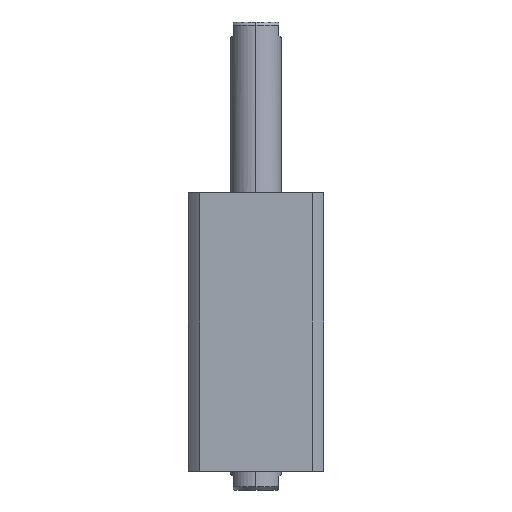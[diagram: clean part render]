
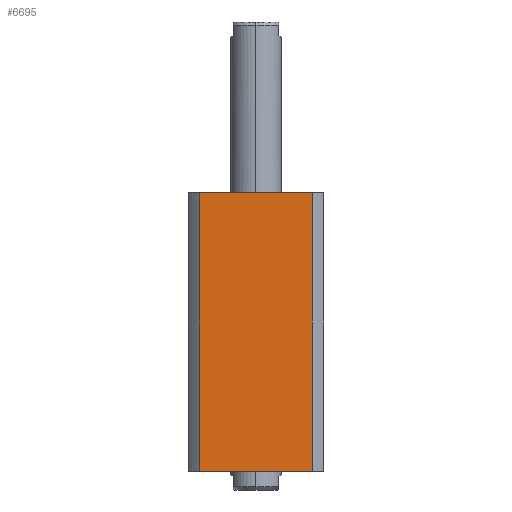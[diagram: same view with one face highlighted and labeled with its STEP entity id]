
A CAD part, left-side view. The second image highlights one B-rep face of the part: STEP entity #6695.
In plain terms, the highlighted planar face has unit normal (-1, 0, 0).
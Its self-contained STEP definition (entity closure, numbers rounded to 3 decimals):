
#31 = VECTOR ( 'NONE', #3500, 1000. ) ;
#461 = PLANE ( 'NONE',  #1492 ) ;
#491 = VERTEX_POINT ( 'NONE', #8034 ) ;
#813 = VERTEX_POINT ( 'NONE', #7697 ) ;
#1061 = FACE_OUTER_BOUND ( 'NONE', #9469, .T. ) ;
#1122 = EDGE_CURVE ( 'NONE', #6775, #1953, #2227, .T. ) ;
#1200 = EDGE_CURVE ( 'NONE', #1953, #813, #2063, .T. ) ;
#1326 = EDGE_CURVE ( 'NONE', #6775, #491, #5116, .T. ) ;
#1492 = AXIS2_PLACEMENT_3D ( 'NONE', #6508, #3386, #4996 ) ;
#1953 = VERTEX_POINT ( 'NONE', #3615 ) ;
#2063 = LINE ( 'NONE', #8396, #9453 ) ;
#2227 = LINE ( 'NONE', #3404, #31 ) ;
#2651 = DIRECTION ( 'NONE',  ( 0., -1., 0. ) ) ;
#2653 = LINE ( 'NONE', #8066, #8949 ) ;
#3146 = CARTESIAN_POINT ( 'NONE',  ( -40., 33.226, 82.5 ) ) ;
#3386 = DIRECTION ( 'NONE',  ( 1., 0., 0. ) ) ;
#3399 = ORIENTED_EDGE ( 'NONE', *, *, #3721, .T. ) ;
#3404 = CARTESIAN_POINT ( 'NONE',  ( -40., 33.226, 82.5 ) ) ;
#3500 = DIRECTION ( 'NONE',  ( 0., -1., 0. ) ) ;
#3615 = CARTESIAN_POINT ( 'NONE',  ( -40., -33.226, 82.5 ) ) ;
#3721 = EDGE_CURVE ( 'NONE', #491, #813, #2653, .T. ) ;
#3759 = DIRECTION ( 'NONE',  ( 0., 0., -1. ) ) ;
#3962 = CARTESIAN_POINT ( 'NONE',  ( -40., 33.226, 82.5 ) ) ;
#4996 = DIRECTION ( 'NONE',  ( 0., 1., 0. ) ) ;
#5116 = LINE ( 'NONE', #3962, #5231 ) ;
#5231 = VECTOR ( 'NONE', #6350, 1000. ) ;
#6350 = DIRECTION ( 'NONE',  ( 0., 0., -1. ) ) ;
#6508 = CARTESIAN_POINT ( 'NONE',  ( -40., 33.226, 82.5 ) ) ;
#6695 = ADVANCED_FACE ( 'NONE', ( #1061 ), #461, .F. ) ;
#6775 = VERTEX_POINT ( 'NONE', #3146 ) ;
#7697 = CARTESIAN_POINT ( 'NONE',  ( -40., -33.226, -82.5 ) ) ;
#8034 = CARTESIAN_POINT ( 'NONE',  ( -40., 33.226, -82.5 ) ) ;
#8066 = CARTESIAN_POINT ( 'NONE',  ( -40., 33.226, -82.5 ) ) ;
#8079 = ORIENTED_EDGE ( 'NONE', *, *, #1200, .F. ) ;
#8396 = CARTESIAN_POINT ( 'NONE',  ( -40., -33.226, 82.5 ) ) ;
#8949 = VECTOR ( 'NONE', #2651, 1000. ) ;
#9453 = VECTOR ( 'NONE', #3759, 1000. ) ;
#9469 = EDGE_LOOP ( 'NONE', ( #3399, #8079, #9723, #9484 ) ) ;
#9484 = ORIENTED_EDGE ( 'NONE', *, *, #1326, .T. ) ;
#9723 = ORIENTED_EDGE ( 'NONE', *, *, #1122, .F. ) ;
